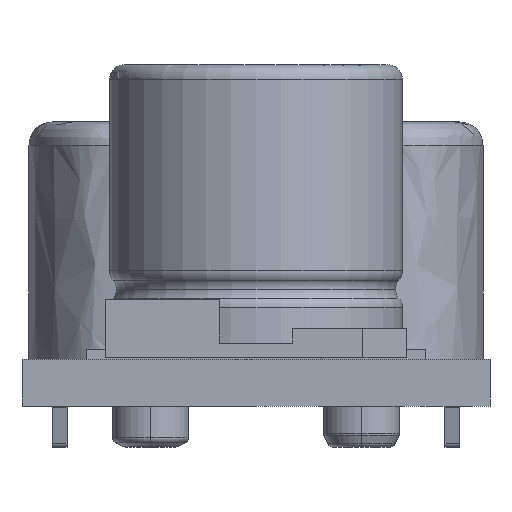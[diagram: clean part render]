
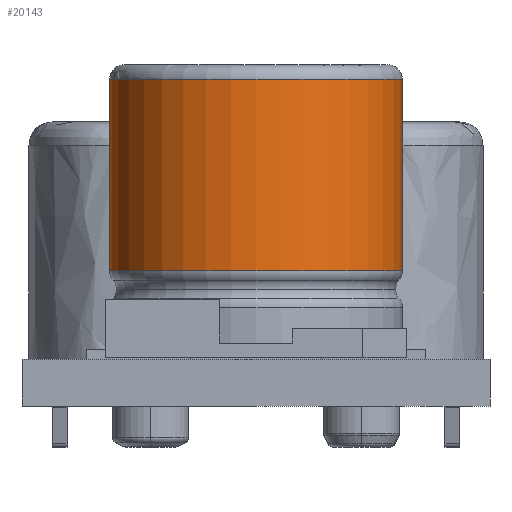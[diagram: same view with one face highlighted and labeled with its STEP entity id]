
A CAD part, front view. The second image highlights one B-rep face of the part: STEP entity #20143.
In plain terms, the highlighted cylindrical face has radius 5 mm (diameter 10 mm), a partial arc.
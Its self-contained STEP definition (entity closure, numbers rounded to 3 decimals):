
#17435 = VERTEX_POINT('',#17436);
#17436 = CARTESIAN_POINT('',(5.,0.,
    9.55));
#17437 = VERTEX_POINT('',#17438);
#17438 = CARTESIAN_POINT('',(-5.,0.,
    9.55));
#17488 = VERTEX_POINT('',#17489);
#17489 = CARTESIAN_POINT('',(-5.,0.,
    3.027));
#17490 = VERTEX_POINT('',#17491);
#17491 = CARTESIAN_POINT('',(5.,0.,
    3.027));
#17566 = EDGE_CURVE('',#17437,#17488,#17567,.T.);
#17567 = LINE('',#17568,#17569);
#17568 = CARTESIAN_POINT('',(-5.,0.,
    34.192));
#17569 = VECTOR('',#17570,1.);
#17570 = DIRECTION('',(0.,0.,-1.));
#17573 = EDGE_CURVE('',#17435,#17490,#17574,.T.);
#17574 = LINE('',#17575,#17576);
#17575 = CARTESIAN_POINT('',(5.,0.,
    34.192));
#17576 = VECTOR('',#17577,1.);
#17577 = DIRECTION('',(0.,0.,-1.));
#20143 = ADVANCED_FACE('',(#20144),#20162,.T.);
#20144 = FACE_BOUND('',#20145,.T.);
#20145 = EDGE_LOOP('',(#20146,#20147,#20154,#20155));
#20146 = ORIENTED_EDGE('',*,*,#17566,.F.);
#20147 = ORIENTED_EDGE('',*,*,#20148,.T.);
#20148 = EDGE_CURVE('',#17437,#17435,#20149,.T.);
#20149 = CIRCLE('',#20150,5.);
#20150 = AXIS2_PLACEMENT_3D('',#20151,#20152,#20153);
#20151 = CARTESIAN_POINT('',(0.,0.,9.55));
#20152 = DIRECTION('',(0.,0.,-1.));
#20153 = DIRECTION('',(-1.,0.,0.));
#20154 = ORIENTED_EDGE('',*,*,#17573,.T.);
#20155 = ORIENTED_EDGE('',*,*,#20156,.T.);
#20156 = EDGE_CURVE('',#17490,#17488,#20157,.T.);
#20157 = CIRCLE('',#20158,5.);
#20158 = AXIS2_PLACEMENT_3D('',#20159,#20160,#20161);
#20159 = CARTESIAN_POINT('',(0.,0.,3.027));
#20160 = DIRECTION('',(0.,0.,1.));
#20161 = DIRECTION('',(1.,0.,0.));
#20162 = CYLINDRICAL_SURFACE('',#20163,5.);
#20163 = AXIS2_PLACEMENT_3D('',#20164,#20165,#20166);
#20164 = CARTESIAN_POINT('',(0.,0.,34.192));
#20165 = DIRECTION('',(0.,0.,-1.));
#20166 = DIRECTION('',(1.,0.,0.));
